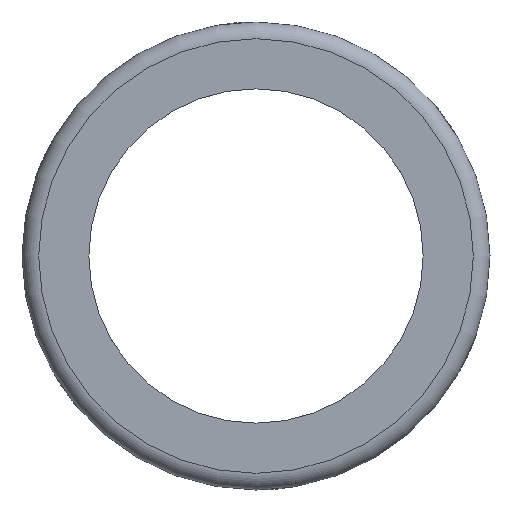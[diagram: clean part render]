
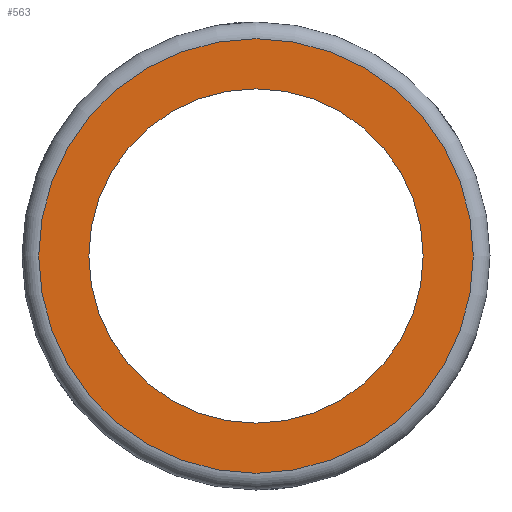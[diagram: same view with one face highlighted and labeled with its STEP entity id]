
A CAD part, left-side view. The second image highlights one B-rep face of the part: STEP entity #563.
In plain terms, the highlighted planar face has unit normal (-1, 0, 0).
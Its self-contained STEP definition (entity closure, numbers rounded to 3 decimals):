
#23=PLANE('',#611);
#39=CIRCLE('',#608,10.);
#41=CIRCLE('',#612,13.);
#192=ORIENTED_EDGE('',*,*,#347,.T.);
#193=ORIENTED_EDGE('',*,*,#333,.T.);
#333=EDGE_CURVE('',#411,#411,#39,.T.);
#347=EDGE_CURVE('',#425,#425,#41,.F.);
#411=VERTEX_POINT('',#915);
#425=VERTEX_POINT('',#969);
#468=EDGE_LOOP('',(#192));
#469=EDGE_LOOP('',(#193));
#516=FACE_BOUND('',#468,.T.);
#517=FACE_BOUND('',#469,.T.);
#563=ADVANCED_FACE('',(#516,#517),#23,.F.);
#608=AXIS2_PLACEMENT_3D('',#914,#669,#670);
#611=AXIS2_PLACEMENT_3D('',#967,#681,#682);
#612=AXIS2_PLACEMENT_3D('',#968,#683,#684);
#669=DIRECTION('',(1.,0.,0.));
#670=DIRECTION('',(0.,0.,-1.));
#681=DIRECTION('',(1.,0.,0.));
#682=DIRECTION('',(0.,0.,-1.));
#683=DIRECTION('',(1.,0.,0.));
#684=DIRECTION('',(0.,0.,-1.));
#914=CARTESIAN_POINT('',(-15.,0.,0.));
#915=CARTESIAN_POINT('',(-15.,0.,-10.));
#967=CARTESIAN_POINT('',(-15.,0.,0.));
#968=CARTESIAN_POINT('',(-15.,0.,0.));
#969=CARTESIAN_POINT('',(-15.,0.,-13.));
